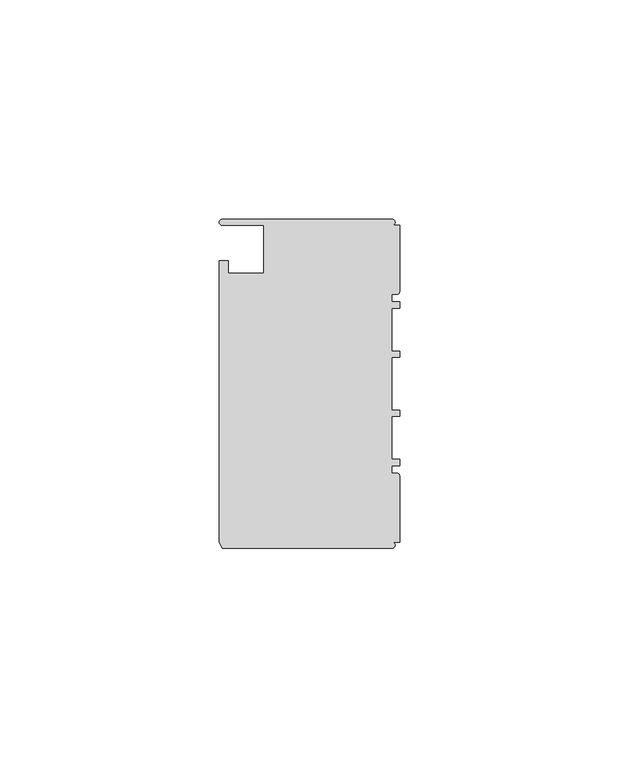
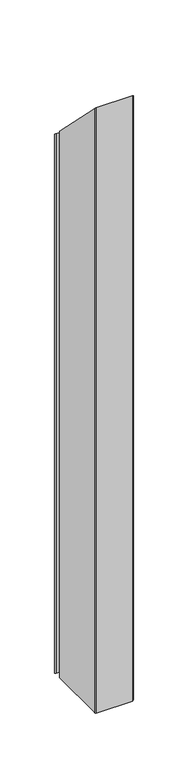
"""IFC4 building model written with IfcOpenShell, lengths in millimetres: member geometry, Прямоугольный импост : 1-AMG-1-Профиль 40Х75 Низ Л."""

from ifc_helpers import new_model, si_unit, frame, origin, place, context, project, spatial, circle_curve, ellipse_curve, source, transform, mapped, element, save
from ifc_brep_helpers import plane_surface, cylinder_surface, advanced_brep


def member_cfed3e5b(model_context):
    return source(origin(), model_context, "Body", "AdvancedBrep", [
        advanced_brep(
        [(-1.7, 37.5, -638.8849139), (-1.7, 36.1, -638.8849139), (0.0, 36.1, -638.8849139), (0.0, 20.95, -638.8849139), (-0.5, 20.45, -638.8849139), (-1.8, 20.45, -638.8849139), (-1.8, 18.65, -638.8849139), (0.0, 18.65, -638.8849139), (0.0, 17.25, -638.8849139), (-1.8, 17.25, -638.8849139), (-1.8, 7.4, -638.8849139), (0.0, 7.4, -638.8849139), (0.0, 6.0, -638.8849139), (-1.8, 6.0, -638.8849139), (-1.8, -6.0, -638.8849139), (0.0, -6.0, -638.8849139), (0.0, -7.4, -638.8849139), (-1.8, -7.4, -638.8849139), (-1.8, -17.25, -638.8849139), (0.0, -17.25, -638.8849139), (0.0, -18.65, -638.8849139), (-1.8, -18.65, -638.8849139), (-1.8, -20.45, -638.8849139), (-0.5, -20.45, -638.8849139), (0.0, -20.95, -638.8849139), (0.0, -36.1, -638.8849139), (-1.7, -36.1, -638.8849139), (-1.7, -37.5, -638.8849139), (-40.4, -37.5, -638.8849139), (-41.1, -35.6, -638.8849139), (-41.1, 28.1, -638.8849139), (-39.0, 28.1, -638.8849139), (-39.0, 25.25, -638.8849139), (-31.0, 25.25, -638.8849139), (-31.0, 36.1, -638.8849139), (-40.4, 36.1, -638.8849139), (-40.4, 37.5, -638.8849139), (-40.4, 37.5, -37.5), (-1.7, 37.5, -37.5), (-40.4, 36.1, -36.1), (-31.0, 36.1, -36.1), (-31.0, 25.25, -25.25), (-39.0, 25.25, -25.25), (-39.0, 28.1, -28.1), (-41.1, 28.1, -28.1), (-41.1, -35.6, 35.6), (-40.4, -37.5, 37.5), (-1.7, -37.5, 37.5), (-1.7, -36.1, 36.1), (0.0, -36.1, 36.1), (0.0, -20.95, 20.95), (-0.5, -20.45, 20.45), (-1.8, -20.45, 20.45), (-1.8, -18.65, 18.65), (0.0, -18.65, 18.65), (0.0, -17.25, 17.25), (-1.8, -17.25, 17.25), (-1.8, -7.4, 7.4), (0.0, -7.4, 7.4), (0.0, -6.0, 6.0), (-1.8, -6.0, 6.0), (-1.8, 6.0, -6.0), (0.0, 6.0, -6.0), (0.0, 7.4, -7.4), (-1.8, 7.4, -7.4), (-1.8, 17.25, -17.25), (0.0, 17.25, -17.25), (0.0, 18.65, -18.65), (-1.8, 18.65, -18.65), (-1.8, 20.45, -20.45), (-0.5, 20.45, -20.45), (0.0, 20.95, -20.95), (0.0, 36.1, -36.1), (-1.7, 36.1, -36.1)],
        [
            (0, 1, circle_curve(frame((-1.7, 36.8, -638.8849139), z_axis=(0.0, 0.0, -1.0), x_axis=(-1.0, 0.0, 0.0)), 0.7)),
            (1, 2),
            (2, 3),
            (3, 4, circle_curve(frame((-0.5, 20.95, -638.8849139), z_axis=(0.0, 0.0, -1.0), x_axis=(1.0, 0.0, 0.0)), 0.5)),
            (4, 5),
            (5, 6),
            (6, 7),
            (7, 8),
            (8, 9),
            (9, 10),
            (10, 11),
            (11, 12),
            (12, 13),
            (13, 14),
            (14, 15),
            (15, 16),
            (16, 17),
            (17, 18),
            (18, 19),
            (19, 20),
            (20, 21),
            (21, 22),
            (22, 23),
            (23, 24, circle_curve(frame((-0.5, -20.95, -638.8849139), z_axis=(0.0, 0.0, -1.0), x_axis=(0.0, 1.0, 0.0)), 0.5)),
            (24, 25),
            (25, 26),
            (26, 27, circle_curve(frame((-1.7, -36.8, -638.8849139), z_axis=(0.0, 0.0, -1.0), x_axis=(-1.0, 0.0, 0.0)), 0.7)),
            (27, 28),
            (28, 29, circle_curve(frame((-38.1714286, -35.6, -638.8849139), z_axis=(0.0, 0.0, -1.0), x_axis=(-1.0, 0.0, 0.0)), 2.9285714)),
            (29, 30),
            (30, 31),
            (31, 32),
            (32, 33),
            (33, 34),
            (34, 35),
            (35, 36, circle_curve(frame((-40.4, 36.8, -638.8849139), z_axis=(0.0, 0.0, -1.0), x_axis=(-1.0, 0.0, 0.0)), 0.7)),
            (36, 0),
            (37, 38),
            (38, 0),
            (36, 37),
            (39, 37, ellipse_curve(frame((-40.4, 36.8, -36.8), z_axis=(0.0, -0.7071067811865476, -0.7071067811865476), x_axis=(0.0, -0.7071067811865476, 0.7071067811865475)), 0.9899495, 0.7)),
            (35, 39),
            (40, 39),
            (34, 40),
            (41, 40),
            (33, 41),
            (42, 41),
            (32, 42),
            (43, 42),
            (31, 43),
            (44, 43),
            (30, 44),
            (45, 44),
            (29, 45),
            (46, 45, ellipse_curve(frame((-38.1714286, -35.6, 35.6), z_axis=(0.0, -0.7071067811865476, -0.7071067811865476), x_axis=(0.0, -0.7071067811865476, 0.7071067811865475)), 4.1416254, 2.9285714)),
            (28, 46),
            (47, 46),
            (27, 47),
            (48, 47, ellipse_curve(frame((-1.7, -36.8, 36.8), z_axis=(0.0, -0.7071067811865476, -0.7071067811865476), x_axis=(0.0, -0.7071067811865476, 0.7071067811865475)), 0.9899495, 0.7)),
            (26, 48),
            (49, 48),
            (25, 49),
            (50, 49),
            (24, 50),
            (51, 50, ellipse_curve(frame((-0.5, -20.95, 20.95), z_axis=(0.0, -0.7071067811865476, -0.7071067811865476), x_axis=(0.0, -0.7071067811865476, 0.7071067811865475)), 0.7071068, 0.5)),
            (23, 51),
            (52, 51),
            (22, 52),
            (53, 52),
            (21, 53),
            (54, 53),
            (20, 54),
            (55, 54),
            (19, 55),
            (56, 55),
            (18, 56),
            (57, 56),
            (17, 57),
            (58, 57),
            (16, 58),
            (59, 58),
            (15, 59),
            (60, 59),
            (14, 60),
            (61, 60),
            (13, 61),
            (62, 61),
            (12, 62),
            (63, 62),
            (11, 63),
            (64, 63),
            (10, 64),
            (65, 64),
            (9, 65),
            (66, 65),
            (8, 66),
            (67, 66),
            (7, 67),
            (68, 67),
            (6, 68),
            (69, 68),
            (5, 69),
            (70, 69),
            (4, 70),
            (71, 70, ellipse_curve(frame((-0.5, 20.95, -20.95), z_axis=(0.0, -0.7071067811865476, -0.7071067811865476), x_axis=(0.0, -0.7071067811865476, 0.7071067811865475)), 0.7071068, 0.5)),
            (3, 71),
            (72, 71),
            (2, 72),
            (73, 72),
            (1, 73),
            (38, 73, ellipse_curve(frame((-1.7, 36.8, -36.8), z_axis=(0.0, -0.7071067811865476, -0.7071067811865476), x_axis=(0.0, -0.7071067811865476, 0.7071067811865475)), 0.9899495, 0.7)),
        ],
        [
            plane_surface(frame((0.0, -55.1674723, -638.8849139), z_axis=(0.0, 0.0, -1.0), x_axis=(-1.0, 0.0, 0.0))),
            plane_surface(frame((-1.7, 37.5, 0.0), z_axis=(0.0, 1.0, 0.0), x_axis=(0.0, 0.0, -1.0))),
            cylinder_surface(frame((-40.4, 36.8, 0.0), z_axis=(0.0, 0.0, 1.0), x_axis=(-1.0, 0.0, 0.0)), 0.7),
            plane_surface(frame((-40.4, 36.1, 0.0), z_axis=(0.0, -1.0, 0.0), x_axis=(0.0, 0.0, -1.0))),
            plane_surface(frame((-31.0, 36.1, 0.0), z_axis=(-1.0, 0.0, 0.0), x_axis=(0.0, 0.0, -1.0))),
            plane_surface(frame((-31.0, 25.25, 0.0), z_axis=(0.0, 1.0, 0.0), x_axis=(0.0, 0.0, -1.0))),
            plane_surface(frame((-39.0, 25.25, 0.0), z_axis=(1.0, 0.0, 0.0), x_axis=(0.0, 0.0, -1.0))),
            plane_surface(frame((-39.0, 28.1, 0.0), z_axis=(0.0, 1.0, 0.0), x_axis=(0.0, 0.0, -1.0))),
            plane_surface(frame((-41.1, 28.1, 0.0), z_axis=(-1.0, 0.0, 0.0), x_axis=(0.0, 0.0, -1.0))),
            cylinder_surface(frame((-38.1714286, -35.6, 0.0), z_axis=(0.0, 0.0, 1.0), x_axis=(-1.0, 0.0, 0.0)), 2.9285714),
            plane_surface(frame((-40.4, -37.5, 0.0), z_axis=(0.0, -1.0, 0.0), x_axis=(0.0, 0.0, -1.0))),
            cylinder_surface(frame((-1.7, -36.8, 0.0), z_axis=(0.0, 0.0, 1.0), x_axis=(-1.0, 0.0, 0.0)), 0.7),
            plane_surface(frame((-1.7, -36.1, 0.0), z_axis=(0.0, -1.0, 0.0), x_axis=(0.0, 0.0, -1.0))),
            plane_surface(frame((0.0, -36.1, 0.0), z_axis=(1.0, 0.0, 0.0), x_axis=(0.0, 0.0, -1.0))),
            cylinder_surface(frame((-0.5, -20.95, 0.0), z_axis=(0.0, 0.0, 1.0), x_axis=(0.0, 1.0, 0.0)), 0.5),
            plane_surface(frame((-0.5, -20.45, 0.0), z_axis=(0.0, 1.0, 0.0), x_axis=(0.0, 0.0, -1.0))),
            plane_surface(frame((-1.8, -20.45, 0.0), z_axis=(1.0, 0.0, 0.0), x_axis=(0.0, 0.0, -1.0))),
            plane_surface(frame((-1.8, -18.65, 0.0), z_axis=(0.0, -1.0, 0.0), x_axis=(0.0, 0.0, -1.0))),
            plane_surface(frame((0.0, -18.65, 0.0), z_axis=(1.0, 0.0, 0.0), x_axis=(0.0, 0.0, -1.0))),
            plane_surface(frame((0.0, -17.25, 0.0), z_axis=(0.0, 1.0, 0.0), x_axis=(0.0, 0.0, -1.0))),
            plane_surface(frame((-1.8, -17.25, 0.0), z_axis=(1.0, 0.0, 0.0), x_axis=(0.0, 0.0, -1.0))),
            plane_surface(frame((-1.8, -7.4, 0.0), z_axis=(0.0, -1.0, 0.0), x_axis=(0.0, 0.0, -1.0))),
            plane_surface(frame((0.0, -7.4, 0.0), z_axis=(1.0, 0.0, 0.0), x_axis=(0.0, 0.0, -1.0))),
            plane_surface(frame((0.0, -6.0, 0.0), z_axis=(0.0, 1.0, 0.0), x_axis=(0.0, 0.0, -1.0))),
            plane_surface(frame((-1.8, -6.0, 0.0), z_axis=(1.0, 0.0, 0.0), x_axis=(0.0, 0.0, -1.0))),
            plane_surface(frame((-1.8, 6.0, 0.0), z_axis=(0.0, -1.0, 0.0), x_axis=(0.0, 0.0, -1.0))),
            plane_surface(frame((0.0, 6.0, 0.0), z_axis=(1.0, 0.0, 0.0), x_axis=(0.0, 0.0, -1.0))),
            plane_surface(frame((0.0, 7.4, 0.0), z_axis=(0.0, 1.0, 0.0), x_axis=(0.0, 0.0, -1.0))),
            plane_surface(frame((-1.8, 7.4, 0.0), z_axis=(1.0, 0.0, 0.0), x_axis=(0.0, 0.0, -1.0))),
            plane_surface(frame((-1.8, 17.25, 0.0), z_axis=(0.0, -1.0, 0.0), x_axis=(0.0, 0.0, -1.0))),
            plane_surface(frame((0.0, 17.25, 0.0), z_axis=(1.0, 0.0, 0.0), x_axis=(0.0, 0.0, -1.0))),
            plane_surface(frame((0.0, 18.65, 0.0), z_axis=(0.0, 1.0, 0.0), x_axis=(0.0, 0.0, -1.0))),
            plane_surface(frame((-1.8, 18.65, 0.0), z_axis=(1.0, 0.0, 0.0), x_axis=(0.0, 0.0, -1.0))),
            plane_surface(frame((-1.8, 20.45, 0.0), z_axis=(0.0, -1.0, 0.0), x_axis=(0.0, 0.0, -1.0))),
            cylinder_surface(frame((-0.5, 20.95, 0.0), z_axis=(0.0, 0.0, 1.0), x_axis=(1.0, 0.0, 0.0)), 0.5),
            plane_surface(frame((0.0, 20.95, 0.0), z_axis=(1.0, 0.0, 0.0), x_axis=(0.0, 0.0, -1.0))),
            plane_surface(frame((0.0, 36.1, 0.0), z_axis=(0.0, 1.0, 0.0), x_axis=(0.0, 0.0, -1.0))),
            cylinder_surface(frame((-1.7, 36.8, 0.0), z_axis=(0.0, 0.0, 1.0), x_axis=(-1.0, 0.0, 0.0)), 0.7),
            plane_surface(frame((-304.8, 0.0, 0.0), z_axis=(0.0, 0.7071067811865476, 0.7071067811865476), x_axis=(0.0, 0.7071067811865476, -0.7071067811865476))),
        ],
        [
            (0, [[1, 2, 3, 4, 5, 6, 7, 8, 9, 10, 11, 12, 13, 14, 15, 16, 17, 18, 19, 20, 21, 22, 23, 24, 25, 26, 27, 28, 29, 30, 31, 32, 33, 34, 35, 36, 37]]),
            (1, [[38, 39, -37, 40]]),
            (2, [[41, -40, -36, 42]]),
            (3, [[43, -42, -35, 44]]),
            (4, [[45, -44, -34, 46]]),
            (5, [[47, -46, -33, 48]]),
            (6, [[49, -48, -32, 50]]),
            (7, [[51, -50, -31, 52]]),
            (8, [[53, -52, -30, 54]]),
            (9, [[55, -54, -29, 56]]),
            (10, [[57, -56, -28, 58]]),
            (11, [[59, -58, -27, 60]]),
            (12, [[61, -60, -26, 62]]),
            (13, [[63, -62, -25, 64]]),
            (14, [[65, -64, -24, 66]]),
            (15, [[67, -66, -23, 68]]),
            (16, [[69, -68, -22, 70]]),
            (17, [[71, -70, -21, 72]]),
            (18, [[73, -72, -20, 74]]),
            (19, [[75, -74, -19, 76]]),
            (20, [[77, -76, -18, 78]]),
            (21, [[79, -78, -17, 80]]),
            (22, [[81, -80, -16, 82]]),
            (23, [[83, -82, -15, 84]]),
            (24, [[85, -84, -14, 86]]),
            (25, [[87, -86, -13, 88]]),
            (26, [[89, -88, -12, 90]]),
            (27, [[91, -90, -11, 92]]),
            (28, [[93, -92, -10, 94]]),
            (29, [[95, -94, -9, 96]]),
            (30, [[97, -96, -8, 98]]),
            (31, [[99, -98, -7, 100]]),
            (32, [[101, -100, -6, 102]]),
            (33, [[103, -102, -5, 104]]),
            (34, [[105, -104, -4, 106]]),
            (35, [[107, -106, -3, 108]]),
            (36, [[109, -108, -2, 110]]),
            (37, [[111, -110, -1, -39]]),
            (38, [[-38, -41, -43, -45, -47, -49, -51, -53, -55, -57, -59, -61, -63, -65, -67, -69, -71, -73, -75, -77, -79, -81, -83, -85, -87, -89, -91, -93, -95, -97, -99, -101, -103, -105, -107, -109, -111]]),
        ],
    ),
    ])


if __name__ == "__main__":
    model = new_model("IFC4")
    model_context = context("Model", 3, world=origin())
    ifc_project = project(units=[si_unit("LENGTHUNIT", "METRE", prefix="MILLI")], contexts=[model_context])
    site = spatial("IfcSite", under=ifc_project)
    building = spatial("IfcBuilding", under=site)
    placement = place(None, origin())
    member_shape = member_cfed3e5b(model_context)
    element("IfcMember", 1, ObjectType="Прямоугольный импост : 1-AMG-1-Профиль 40Х75 Низ Л", at=placement, inside=building, context=model_context, shape_type="MappedRepresentation", body=[
        mapped(member_shape, transform((0.0, 0.0, 0.0), x_axis=(1.0, 0.0, 0.0), y_axis=(0.0, 1.0, 0.0), z_axis=(0.0, 0.0, 1.0))),
    ])
    save(model, "model.ifc")
